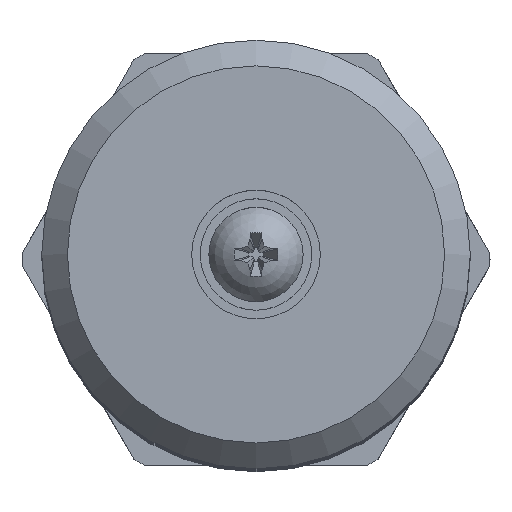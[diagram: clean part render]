
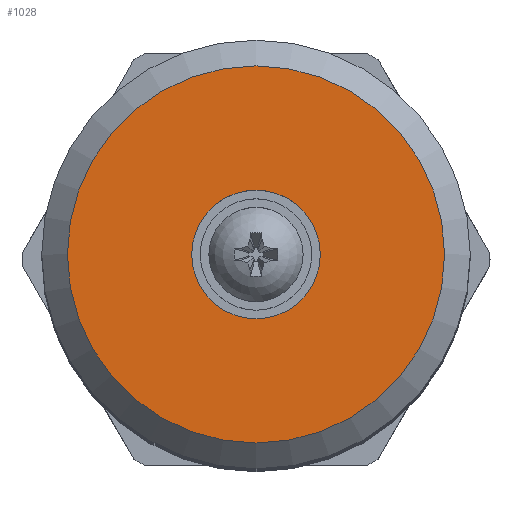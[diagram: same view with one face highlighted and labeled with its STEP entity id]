
A CAD part, top view. The second image highlights one B-rep face of the part: STEP entity #1028.
In plain terms, the highlighted planar face has unit normal (0, 0, 1) as drawn and (0, 1, 0) by its records, which use the part's own axes.
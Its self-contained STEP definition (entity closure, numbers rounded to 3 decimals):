
#1028=ADVANCED_FACE('',(#2266,#2268),#2270,.T.);
#2266=FACE_BOUND('',#2267,.T.);
#2267=EDGE_LOOP('',(#2805));
#2268=FACE_BOUND('',#2269,.T.);
#2269=EDGE_LOOP('',(#2806));
#2270=PLANE('',#2271);
#2271=AXIS2_PLACEMENT_3D('',#2272,#2273,#2274);
#2272=CARTESIAN_POINT('',(0.,5.,0.));
#2273=DIRECTION('',(0.,1.,0.));
#2274=DIRECTION('',(-1.,0.,0.));
#2805=ORIENTED_EDGE('',*,*,#3083,.T.);
#2806=ORIENTED_EDGE('',*,*,#3084,.T.);
#3083=EDGE_CURVE('',#3398,#3398,#3399,.T.);
#3084=EDGE_CURVE('',#3400,#3400,#3401,.F.);
#3398=VERTEX_POINT('',#4398);
#3399=CIRCLE('',#4399,11.);
#3400=VERTEX_POINT('',#4403);
#3401=CIRCLE('',#4404,3.75);
#4398=CARTESIAN_POINT('',(-11.,5.,0.));
#4399=AXIS2_PLACEMENT_3D('',#4400,#4401,#4402);
#4400=CARTESIAN_POINT('',(0.,5.,0.));
#4401=DIRECTION('',(0.,1.,0.));
#4402=DIRECTION('',(-1.,0.,0.));
#4403=CARTESIAN_POINT('',(0.,5.,3.75));
#4404=AXIS2_PLACEMENT_3D('',#4405,#4406,#4407);
#4405=CARTESIAN_POINT('',(0.,5.,0.));
#4406=DIRECTION('',(0.,1.,0.));
#4407=DIRECTION('',(0.,0.,1.));
